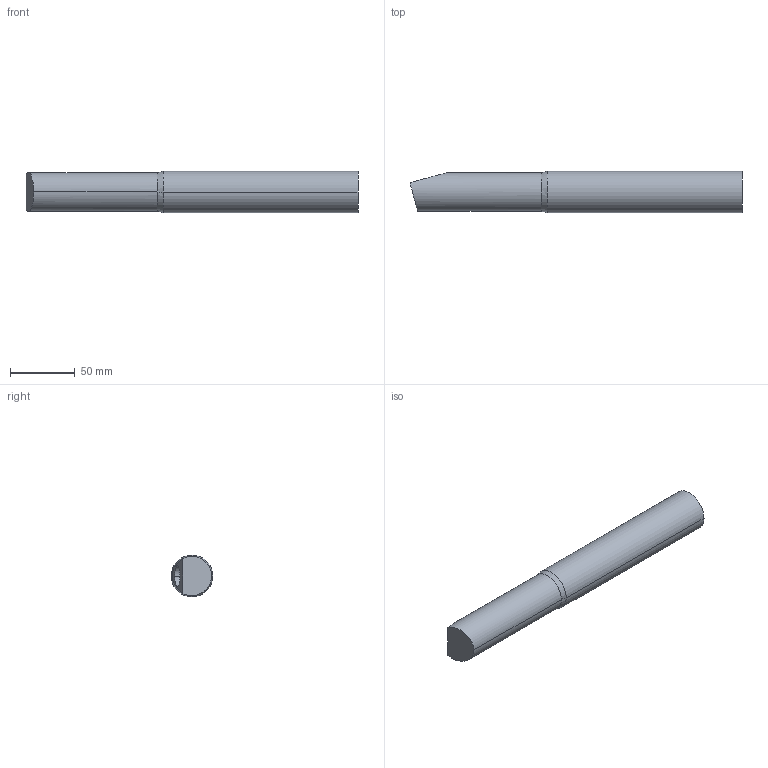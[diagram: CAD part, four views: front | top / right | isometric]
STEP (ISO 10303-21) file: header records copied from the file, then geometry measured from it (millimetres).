
FILE_DESCRIPTION( (''), '2;1');
FILE_NAME ('SY-2080-14_TH-32251-B.stp','2022-04-09T13:50:51',(''),(''),'spGate 18.9.3 (****-****-****-****)','','');
FILE_SCHEMA (('AUTOMOTIVE_DESIGN'));
Length unit declared in the file: millimetre
Products named in the file (2): Assembly; SY-2080-14_TH-32251-B-prt0
Assembly tree (1 placements, depth 2):
  Assembly
    SY-2080-14_TH-32251-B-prt0
Bounding box: 255.45 x 32 x 32 mm (x, y, z)
Volume: 171879 mm3; surface area: 33752 mm2
Topology: 1 solids, 1 shells, 24 faces, 51 edges, 28 vertices
Faces by surface type: bspline 12, cylinder 8, plane 4
Entity records: 1120 total; most frequent: CARTESIAN_POINT 255, ORIENTED_EDGE 94, DIRECTION 77, COLOUR_RGB 72, PRESENTATION_STYLE_ASSIGNMENT 72, STYLED_ITEM 72, EDGE_CURVE 47, DRAUGHTING_PRE_DEFINED_CURVE_FONT 47
